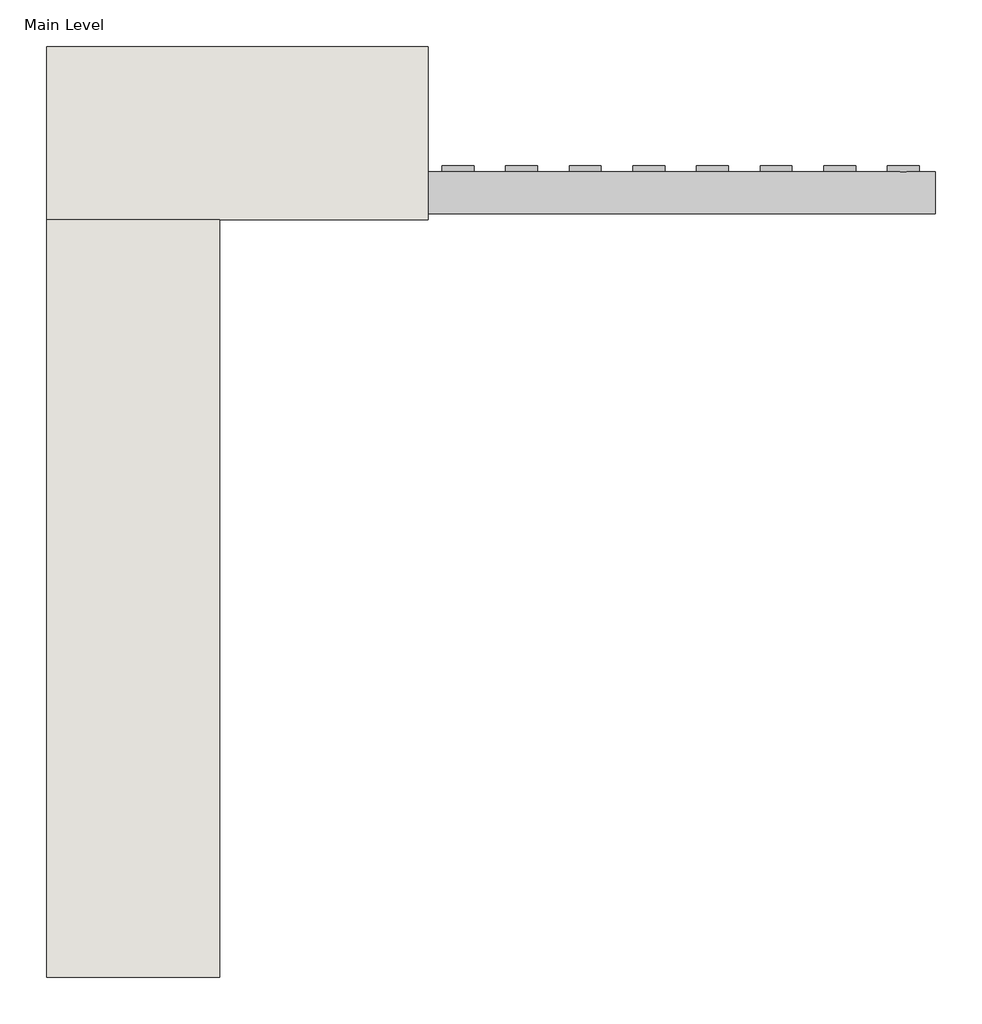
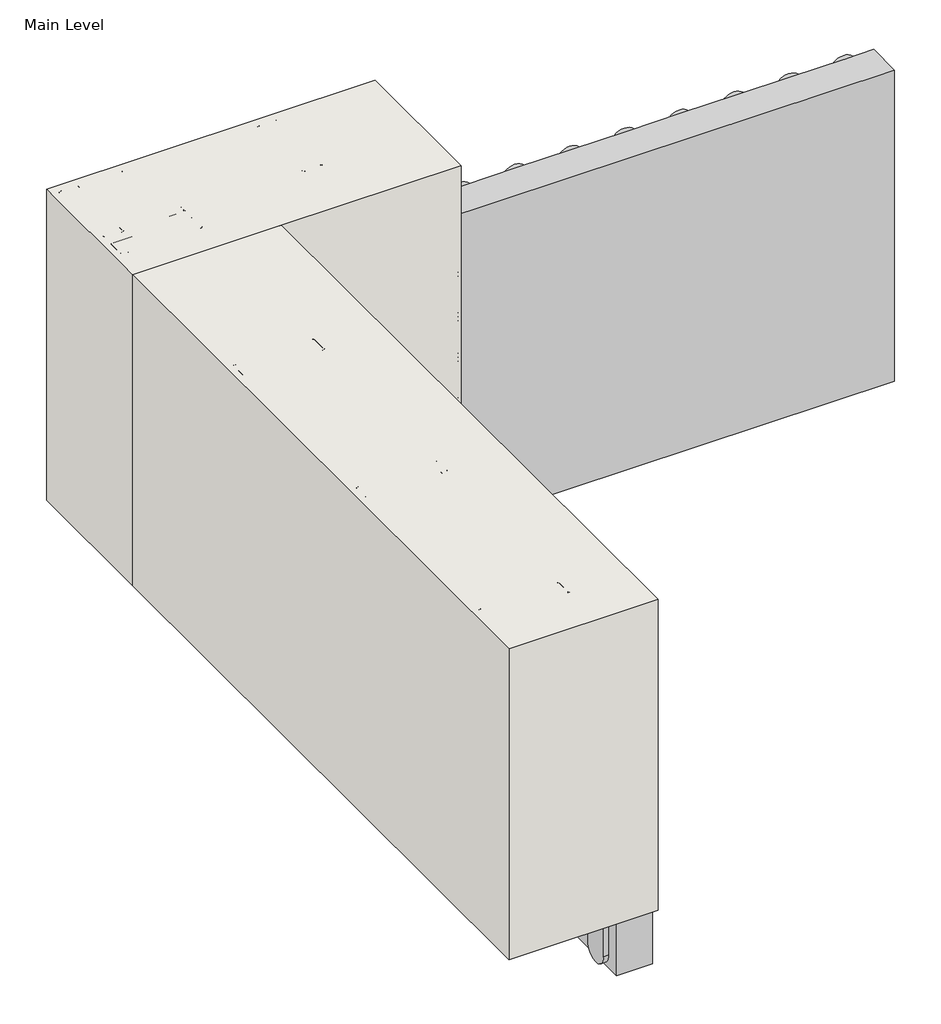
# One storey, incomplete: 30 proxies, 2 walls.
"""IFC4 building model written with IfcOpenShell, lengths in millimetres."""

from ifc_helpers import new_model, si_unit, origin, origin_with_axes, place, context, project, spatial, polyline, outline, extrude, faceted_brep, transform, mapped, element, save
from components import generic_models_03ec6e0e, generic_models_0ed8512b, generic_models_91a65217, generic_models_7cb75a2d, generic_models_e38217e9, generic_models_8121e3b1, generic_models_e2e28054, generic_models_599f1aef, generic_models_cbf5ee67, proxy_50213ae0, proxy_63d6b373, proxy_d4c17246

model = new_model("IFC4")

# Units and contexts
model_context = context("Model", 3, world=origin())
ifc_project = project(units=[si_unit("LENGTHUNIT", "METRE", prefix="MILLI")], contexts=[model_context])

# Site, building, storey
site = spatial("IfcSite", under=ifc_project)
building = spatial("IfcBuilding", under=site)
storey = spatial("IfcBuildingStorey", under=building, Name="Main Level", Elevation=0.0)

# Proxies
placement = place(None, origin())
generic_models_shape = generic_models_03ec6e0e(model_context)
element("IfcBuildingElementProxy", 1, Name="CRAi Generic Model Drywall Screw : CRAi Generic Model Drywall Screw", ObjectType="CRAi Generic Model Drywall Screw : CRAi Generic Model Drywall Screw", at=placement, inside=storey, context=model_context, shape_type="MappedRepresentation", body=[
    mapped(generic_models_shape, transform((27329.7539273, 614.9316297, 584.2), x_axis=(0.0, 1.0, 0.0), y_axis=(0.0, 0.0, 1.0), z_axis=(1.0, 0.0, 0.0))),
])
element("IfcBuildingElementProxy", 2, Name="CRAi Generic Model Drywall Screw : CRAi Generic Model Drywall Screw", ObjectType="CRAi Generic Model Drywall Screw : CRAi Generic Model Drywall Screw", at=placement, inside=storey, context=model_context, shape_type="MappedRepresentation", body=[
    mapped(generic_models_shape, transform((27329.7539273, 221.2316297, 584.2), x_axis=(0.0, 1.0, 0.0), y_axis=(0.0, 0.0, 1.0), z_axis=(1.0, 0.0, 0.0))),
])
element("IfcBuildingElementProxy", 3, Name="CRAi Generic Model Drywall Screw : CRAi Generic Model Drywall Screw", ObjectType="CRAi Generic Model Drywall Screw : CRAi Generic Model Drywall Screw", at=placement, inside=storey, context=model_context, shape_type="MappedRepresentation", body=[
    mapped(generic_models_shape, transform((27329.7539273, -172.4683703, 584.2), x_axis=(0.0, 1.0, 0.0), y_axis=(0.0, 0.0, 1.0), z_axis=(1.0, 0.0, 0.0))),
])
element("IfcBuildingElementProxy", 4, Name="CRAi Generic Model Drywall Screw : CRAi Generic Model Drywall Screw", ObjectType="CRAi Generic Model Drywall Screw : CRAi Generic Model Drywall Screw", at=placement, inside=storey, context=model_context, shape_type="MappedRepresentation", body=[
    mapped(generic_models_shape, transform((27329.7539273, -566.1683703, 584.2), x_axis=(0.0, 1.0, 0.0), y_axis=(0.0, 0.0, 1.0), z_axis=(1.0, 0.0, 0.0))),
])
element("IfcBuildingElementProxy", 5, Name="CRAi Generic Model Drywall Screw : CRAi Generic Model Drywall Screw", ObjectType="CRAi Generic Model Drywall Screw : CRAi Generic Model Drywall Screw", at=placement, inside=storey, context=model_context, shape_type="MappedRepresentation", body=[
    mapped(generic_models_shape, transform((27294.8289273, 633.9816297, 584.2), x_axis=(1.0, 0.0, 0.0), y_axis=(0.0, 0.0, 1.0), z_axis=(0.0, -1.0, 0.0))),
])
element("IfcBuildingElementProxy", 6, Name="CRAi Generic Model Drywall Screw : CRAi Generic Model Drywall Screw", ObjectType="CRAi Generic Model Drywall Screw : CRAi Generic Model Drywall Screw", at=placement, inside=storey, context=model_context, shape_type="MappedRepresentation", body=[
    mapped(generic_models_shape, transform((27180.5289273, 633.9816297, 584.2), x_axis=(1.0, 0.0, 0.0), y_axis=(0.0, 0.0, 1.0), z_axis=(0.0, -1.0, 0.0))),
])
element("IfcBuildingElementProxy", 7, Name="CRAi Generic Model Drywall Screw : CRAi Generic Model Drywall Screw", ObjectType="CRAi Generic Model Drywall Screw : CRAi Generic Model Drywall Screw", at=placement, inside=storey, context=model_context, shape_type="MappedRepresentation", body=[
    mapped(generic_models_shape, transform((27548.8289273, 633.9816297, 584.2), x_axis=(1.0, 0.0, 0.0), y_axis=(0.0, 0.0, 1.0), z_axis=(0.0, -1.0, 0.0))),
])
generic_models_2_shape = generic_models_0ed8512b(model_context)
element("IfcBuildingElementProxy", 8, Name="Durabond Generic Model Insulation Adhesive Flat : Durabond Generic Model Insulation Adhesive Flat", ObjectType="Durabond Generic Model Insulation Adhesive Flat : Durabond Generic Model Insulation Adhesive Flat", at=placement, inside=storey, context=model_context, shape_type="MappedRepresentation", body=[
    mapped(generic_models_2_shape, transform((27336.1039273, -620.1433703, 0.0), x_axis=(0.0, 1.0, 0.0), y_axis=(-1.0, 0.0, 0.0), z_axis=(0.0, 0.0, 1.0))),
])
element("IfcBuildingElementProxy", 9, Name="Durabond Generic Model Insulation Adhesive Flat : Durabond Generic Model Insulation Adhesive Flat", ObjectType="Durabond Generic Model Insulation Adhesive Flat : Durabond Generic Model Insulation Adhesive Flat", at=placement, inside=storey, context=model_context, shape_type="MappedRepresentation", body=[
    mapped(generic_models_2_shape, transform((27336.1039273, -518.5433703, 0.0), x_axis=(0.0, 1.0, 0.0), y_axis=(-1.0, 0.0, 0.0), z_axis=(0.0, 0.0, 1.0))),
])
element("IfcBuildingElementProxy", 10, Name="Durabond Generic Model Insulation Adhesive Flat : Durabond Generic Model Insulation Adhesive Flat", ObjectType="Durabond Generic Model Insulation Adhesive Flat : Durabond Generic Model Insulation Adhesive Flat", at=placement, inside=storey, context=model_context, shape_type="MappedRepresentation", body=[
    mapped(generic_models_2_shape, transform((27336.1039273, -416.9433703, 0.0), x_axis=(0.0, 1.0, 0.0), y_axis=(-1.0, 0.0, 0.0), z_axis=(0.0, 0.0, 1.0))),
])
element("IfcBuildingElementProxy", 11, Name="Durabond Generic Model Insulation Adhesive Flat : Durabond Generic Model Insulation Adhesive Flat", ObjectType="Durabond Generic Model Insulation Adhesive Flat : Durabond Generic Model Insulation Adhesive Flat", at=placement, inside=storey, context=model_context, shape_type="MappedRepresentation", body=[
    mapped(generic_models_2_shape, transform((27336.1039273, -315.3433703, 0.0), x_axis=(0.0, 1.0, 0.0), y_axis=(-1.0, 0.0, 0.0), z_axis=(0.0, 0.0, 1.0))),
])
element("IfcBuildingElementProxy", 12, Name="Durabond Generic Model Insulation Adhesive Flat : Durabond Generic Model Insulation Adhesive Flat", ObjectType="Durabond Generic Model Insulation Adhesive Flat : Durabond Generic Model Insulation Adhesive Flat", at=placement, inside=storey, context=model_context, shape_type="MappedRepresentation", body=[
    mapped(generic_models_2_shape, transform((27336.1039273, -213.7433703, 0.0), x_axis=(0.0, 1.0, 0.0), y_axis=(-1.0, 0.0, 0.0), z_axis=(0.0, 0.0, 1.0))),
])
element("IfcBuildingElementProxy", 13, Name="Durabond Generic Model Insulation Adhesive Flat : Durabond Generic Model Insulation Adhesive Flat", ObjectType="Durabond Generic Model Insulation Adhesive Flat : Durabond Generic Model Insulation Adhesive Flat", at=placement, inside=storey, context=model_context, shape_type="MappedRepresentation", body=[
    mapped(generic_models_2_shape, transform((27336.1039273, -112.1433703, 0.0), x_axis=(0.0, 1.0, 0.0), y_axis=(-1.0, 0.0, 0.0), z_axis=(0.0, 0.0, 1.0))),
])
element("IfcBuildingElementProxy", 14, Name="Durabond Generic Model Insulation Adhesive Flat : Durabond Generic Model Insulation Adhesive Flat", ObjectType="Durabond Generic Model Insulation Adhesive Flat : Durabond Generic Model Insulation Adhesive Flat", at=placement, inside=storey, context=model_context, shape_type="MappedRepresentation", body=[
    mapped(generic_models_2_shape, transform((27336.1039273, -10.5433703, 0.0), x_axis=(0.0, 1.0, 0.0), y_axis=(-1.0, 0.0, 0.0), z_axis=(0.0, 0.0, 1.0))),
])
element("IfcBuildingElementProxy", 15, Name="Durabond Generic Model Insulation Adhesive Flat : Durabond Generic Model Insulation Adhesive Flat", ObjectType="Durabond Generic Model Insulation Adhesive Flat : Durabond Generic Model Insulation Adhesive Flat", at=placement, inside=storey, context=model_context, shape_type="MappedRepresentation", body=[
    mapped(generic_models_2_shape, transform((27336.1039273, 91.0566297, 0.0), x_axis=(0.0, 1.0, 0.0), y_axis=(-1.0, 0.0, 0.0), z_axis=(0.0, 0.0, 1.0))),
])
element("IfcBuildingElementProxy", 16, Name="Durabond Generic Model Insulation Adhesive Flat : Durabond Generic Model Insulation Adhesive Flat", ObjectType="Durabond Generic Model Insulation Adhesive Flat : Durabond Generic Model Insulation Adhesive Flat", at=placement, inside=storey, context=model_context, shape_type="MappedRepresentation", body=[
    mapped(generic_models_2_shape, transform((27336.1039273, 192.6566297, 0.0), x_axis=(0.0, 1.0, 0.0), y_axis=(-1.0, 0.0, 0.0), z_axis=(0.0, 0.0, 1.0))),
])
element("IfcBuildingElementProxy", 17, Name="Durabond Generic Model Insulation Adhesive Flat : Durabond Generic Model Insulation Adhesive Flat", ObjectType="Durabond Generic Model Insulation Adhesive Flat : Durabond Generic Model Insulation Adhesive Flat", at=placement, inside=storey, context=model_context, shape_type="MappedRepresentation", body=[
    mapped(generic_models_2_shape, transform((27336.1039273, 294.2566297, 0.0), x_axis=(0.0, 1.0, 0.0), y_axis=(-1.0, 0.0, 0.0), z_axis=(0.0, 0.0, 1.0))),
])
element("IfcBuildingElementProxy", 18, Name="Durabond Generic Model Insulation Adhesive Flat : Durabond Generic Model Insulation Adhesive Flat", ObjectType="Durabond Generic Model Insulation Adhesive Flat : Durabond Generic Model Insulation Adhesive Flat", at=placement, inside=storey, context=model_context, shape_type="MappedRepresentation", body=[
    mapped(generic_models_2_shape, transform((27336.1039273, 395.8566297, 0.0), x_axis=(0.0, 1.0, 0.0), y_axis=(-1.0, 0.0, 0.0), z_axis=(0.0, 0.0, 1.0))),
])
element("IfcBuildingElementProxy", 19, Name="Durabond Generic Model Insulation Adhesive Flat : Durabond Generic Model Insulation Adhesive Flat", ObjectType="Durabond Generic Model Insulation Adhesive Flat : Durabond Generic Model Insulation Adhesive Flat", at=placement, inside=storey, context=model_context, shape_type="MappedRepresentation", body=[
    mapped(generic_models_2_shape, transform((27336.1039273, 497.4566297, 0.0), x_axis=(0.0, 1.0, 0.0), y_axis=(-1.0, 0.0, 0.0), z_axis=(0.0, 0.0, 1.0))),
])
generic_models_3_shape = generic_models_91a65217(model_context)
element("IfcBuildingElementProxy", 20, Name="Durabond Generic Model Insulation Adhesive Flat : Durabond Generic Model Insulation Adhesive Flat", ObjectType="Durabond Generic Model Insulation Adhesive Flat : Durabond Generic Model Insulation Adhesive Flat", at=placement, inside=storey, context=model_context, shape_type="MappedRepresentation", body=[
    mapped(generic_models_3_shape, transform((27399.6039273, 627.6316297, 0.0), x_axis=(1.0, 0.0, 0.0), y_axis=(0.0, 1.0, 0.0), z_axis=(0.0, 0.0, 1.0))),
])
element("IfcBuildingElementProxy", 21, Name="Durabond Generic Model Insulation Adhesive Flat : Durabond Generic Model Insulation Adhesive Flat", ObjectType="Durabond Generic Model Insulation Adhesive Flat : Durabond Generic Model Insulation Adhesive Flat", at=placement, inside=storey, context=model_context, shape_type="MappedRepresentation", body=[
    mapped(generic_models_3_shape, transform((27501.2039273, 627.6316297, 0.0), x_axis=(1.0, 0.0, 0.0), y_axis=(0.0, 1.0, 0.0), z_axis=(0.0, 0.0, 1.0))),
])
element("IfcBuildingElementProxy", 22, Name="Durabond Generic Model Insulation Adhesive Flat : Durabond Generic Model Insulation Adhesive Flat", ObjectType="Durabond Generic Model Insulation Adhesive Flat : Durabond Generic Model Insulation Adhesive Flat", at=placement, inside=storey, context=model_context, shape_type="MappedRepresentation", body=[
    mapped(generic_models_3_shape, transform((27602.8039273, 627.6316297, 0.0), x_axis=(1.0, 0.0, 0.0), y_axis=(0.0, 1.0, 0.0), z_axis=(0.0, 0.0, 1.0))),
])
element("IfcBuildingElementProxy", 23, Name="Durabond Generic Model Insulation Adhesive Flat : Durabond Generic Model Insulation Adhesive Flat", ObjectType="Durabond Generic Model Insulation Adhesive Flat : Durabond Generic Model Insulation Adhesive Flat", at=placement, inside=storey, context=model_context, shape_type="MappedRepresentation", body=[
    mapped(generic_models_3_shape, transform((27704.4039273, 627.6316297, 0.0), x_axis=(1.0, 0.0, 0.0), y_axis=(0.0, 1.0, 0.0), z_axis=(0.0, 0.0, 1.0))),
])
generic_models_4_shape = generic_models_7cb75a2d(model_context)
generic_models_5_shape = generic_models_e38217e9(model_context)
generic_models_6_shape = generic_models_8121e3b1(model_context)
generic_models_7_shape = generic_models_e2e28054(model_context)
element("IfcBuildingElementProxy", 24, Name="CRAi Generic Model Mesh Piece Face Based : Wider Mesh", ObjectType="CRAi Generic Model Mesh Piece Face Based : Wider Mesh", at=placement, inside=storey, context=model_context, shape_type="MappedRepresentation", body=[
    mapped(generic_models_4_shape, transform((27588.5164273, 541.9066297, 228.6), x_axis=(0.0, 0.0, 1.0), y_axis=(-1.0, 0.0, 0.0), z_axis=(0.0, -1.0, 0.0))),
    mapped(generic_models_5_shape, transform((27588.5164273, 541.9066297, 228.6), x_axis=(0.0, 0.0, 1.0), y_axis=(-1.0, 0.0, 0.0), z_axis=(0.0, -1.0, 0.0))),
    mapped(generic_models_6_shape, transform((27588.5164273, 541.9066297, 228.6), x_axis=(0.0, 0.0, 1.0), y_axis=(-1.0, 0.0, 0.0), z_axis=(0.0, -1.0, 0.0))),
    mapped(generic_models_7_shape, transform((27588.5164273, 541.9066297, 228.6), x_axis=(0.0, 0.0, 1.0), y_axis=(-1.0, 0.0, 0.0), z_axis=(0.0, -1.0, 0.0))),
])
generic_models_8_shape = generic_models_599f1aef(model_context)
element("IfcBuildingElementProxy", 25, Name="CRAi Generic Model Metal Stud Array : CRAi Generic Model Metal Stud Array", ObjectType="CRAi Generic Model Metal Stud Array : CRAi Generic Model Metal Stud Array", at=placement, inside=storey, context=model_context, shape_type="MappedRepresentation", body=[
    mapped(generic_models_8_shape, transform((27364.6789273, 726.0566297, 0.0), x_axis=(1.0, 0.0, 0.0), y_axis=(0.0, 1.0, 0.0), z_axis=(0.0, 0.0, 1.0))),
])
generic_models_9_shape = generic_models_cbf5ee67(model_context)
element("IfcBuildingElementProxy", 26, Name="CRAi Generic Model Metal Stud Array : CRAi Generic Model Metal Stud Array", ObjectType="CRAi Generic Model Metal Stud Array : CRAi Generic Model Metal Stud Array", at=placement, inside=storey, context=model_context, shape_type="MappedRepresentation", body=[
    mapped(generic_models_9_shape, transform((27237.6789273, 24.3816297, 0.0), x_axis=(0.0, -1.0, 0.0), y_axis=(1.0, 0.0, 0.0), z_axis=(0.0, 0.0, 1.0))),
])
proxy_shape = proxy_50213ae0(model_context)
element("IfcBuildingElementProxy", 27, Name="Durabond Generic Model Quantum Select Insulation Board : 3\"", ObjectType="Durabond Generic Model Quantum Select Insulation Board : 3\"", at=placement, inside=storey, context=model_context, shape_type="MappedRepresentation", body=[
    mapped(proxy_shape, transform((27958.4039273, 624.4566297, 203.2), x_axis=(1.0, 0.0, 0.0), y_axis=(0.0, 0.0, 1.0), z_axis=(0.0, -1.0, 0.0))),
])
element("IfcBuildingElementProxy", 28, Name="Durabond Generic Model Quantum Select Insulation Board : 3\"", ObjectType="Durabond Generic Model Quantum Select Insulation Board : 3\"", at=placement, inside=storey, context=model_context, shape_type="MappedRepresentation", body=[
    mapped(proxy_shape, transform((27339.2789273, -61.3433703, 203.2), x_axis=(0.0, -1.0, 0.0), y_axis=(0.0, 0.0, -1.0), z_axis=(1.0, 0.0, 0.0))),
])
proxy_2_shape = proxy_63d6b373(model_context)
element("IfcBuildingElementProxy", 29, Name="Durabond Generic Model Corner 90 Membrane : 4\" Barrier Seam Tape", ObjectType="Durabond Generic Model Corner 90 Membrane : 4\" Barrier Seam Tape", at=placement, inside=storey, context=model_context, shape_type="MappedRepresentation", body=[
    mapped(proxy_2_shape, transform((27330.5476773, 633.1878797, 0.0), x_axis=(-1.0, 0.0, 0.0), y_axis=(0.0, -1.0, 0.0), z_axis=(0.0, 0.0, 1.0))),
])
proxy_3_shape = proxy_d4c17246(model_context)
element("IfcBuildingElementProxy", 30, Name="CRAi Generic Model Metal Stud : Metal Framing Stud - 1\" x 3.5\"", ObjectType="CRAi Generic Model Metal Stud : Metal Framing Stud - 1\" x 3.5\"", at=placement, inside=storey, context=model_context, shape_type="MappedRepresentation", body=[
    mapped(proxy_3_shape, transform((27294.8289273, 726.0566297, 0.0), x_axis=(1.0, 0.0, 0.0), y_axis=(0.0, 1.0, 0.0), z_axis=(0.0, 0.0, 1.0))),
])

# Walls
element("IfcWall", 31, ObjectType="189mm (7.5”) EIFS Field Applied on Mtl. Stud Layer - 50mm Grooved Insulation Board Metal Stud Wall", at=placement, inside=storey, context=model_context, shape_type="SweptSolid", body=[
    extrude(outline(polyline([(27425.0039273, 538.7316297), (27425.0039273, -670.9433703), (27148.7789273, -670.9433703), (27148.7789273, 538.7316297), (27425.0039273, 538.7316297)])), origin_with_axes(), (0.0, 0.0, 1.0), 609.6),
])
element("IfcWall", 32, ObjectType="189mm (7.5”) EIFS Field Applied on Mtl. Stud Layer - 50mm Grooved Insulation Board Metal Stud Wall", at=placement, inside=storey, context=model_context, shape_type="Brep", body=[
    faceted_brep([(27148.7789273, 538.7316297, 0.0), (27425.0039273, 538.7316297, 0.0), (27758.3789273, 538.7316297, 0.0), (27758.3789273, 538.7316297, 609.6), (27425.0039273, 538.7316297, 609.6), (27148.7789273, 538.7316297, 609.6), (27148.7789273, 814.9566297, 0.0), (27148.7789273, 814.9566297, 609.6), (27758.3789273, 814.9566297, 609.6), (27758.3789273, 814.9566297, 0.0)], [[[0, 1, 2, 3, 4, 5]], [[6, 7, 8, 9]], [[2, 1, 0, 6, 9]], [[3, 2, 9, 8]], [[5, 4, 3, 8, 7]], [[0, 5, 7, 6]]]),
])

save(model, "model.ifc")
